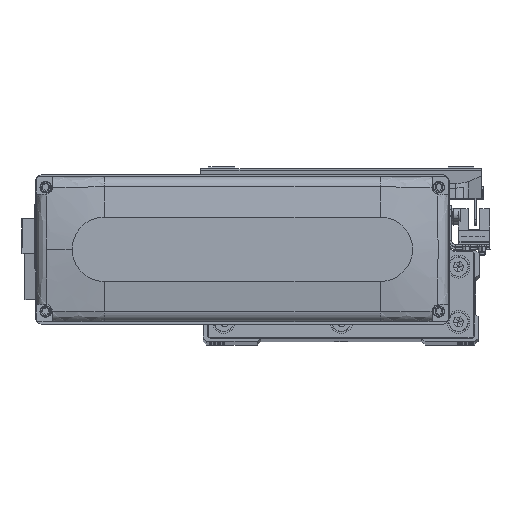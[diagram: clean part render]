
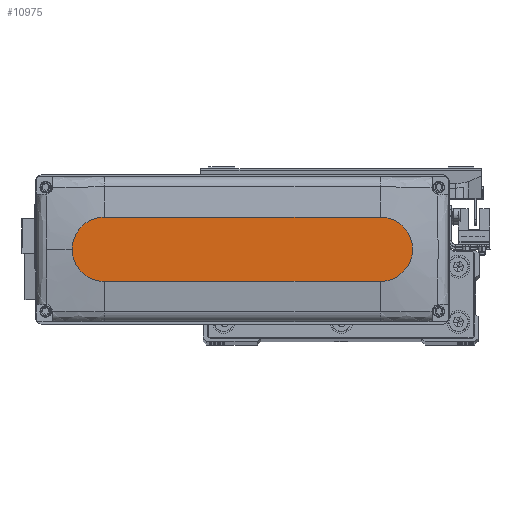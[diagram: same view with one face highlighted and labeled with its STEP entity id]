
A CAD part, top view. The second image highlights one B-rep face of the part: STEP entity #10975.
In plain terms, the highlighted planar face has unit normal (0, 0, 1).
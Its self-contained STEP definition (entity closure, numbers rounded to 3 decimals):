
#119 = ORIENTED_EDGE ( 'NONE', *, *, #21927, .T. ) ;
#1706 = DIRECTION ( 'NONE',  ( 0., 0., 1. ) ) ;
#2433 = CARTESIAN_POINT ( 'NONE',  ( -60., 14., 28.5 ) ) ;
#3876 = DIRECTION ( 'NONE',  ( 0., 0., 1. ) ) ;
#4116 = CARTESIAN_POINT ( 'NONE',  ( 60., 0., 28.5 ) ) ;
#4117 = VERTEX_POINT ( 'NONE', #28128 ) ;
#4329 = CARTESIAN_POINT ( 'NONE',  ( 0., 0., 28.5 ) ) ;
#4576 = CARTESIAN_POINT ( 'NONE',  ( 74., 0., 28.5 ) ) ;
#5502 = CARTESIAN_POINT ( 'NONE',  ( -60., 0., 28.5 ) ) ;
#5595 = VERTEX_POINT ( 'NONE', #9642 ) ;
#6003 = LINE ( 'NONE', #2433, #18856 ) ;
#6609 = VECTOR ( 'NONE', #16626, 1000. ) ;
#7443 = AXIS2_PLACEMENT_3D ( 'NONE', #4329, #33551, #25305 ) ;
#7637 = DIRECTION ( 'NONE',  ( 1., 0., 0. ) ) ;
#7939 = CARTESIAN_POINT ( 'NONE',  ( 60., 14., 28.5 ) ) ;
#9235 = VERTEX_POINT ( 'NONE', #4576 ) ;
#9642 = CARTESIAN_POINT ( 'NONE',  ( 60., -14., 28.5 ) ) ;
#10921 = FACE_OUTER_BOUND ( 'NONE', #37756, .T. ) ;
#10975 = ADVANCED_FACE ( 'NONE', ( #10921 ), #29560, .T. ) ;
#11941 = CIRCLE ( 'NONE', #44390, 14. ) ;
#12727 = ORIENTED_EDGE ( 'NONE', *, *, #35115, .T. ) ;
#13605 = CIRCLE ( 'NONE', #25674, 14. ) ;
#15940 = CARTESIAN_POINT ( 'NONE',  ( -60., -14., 28.5 ) ) ;
#16442 = VERTEX_POINT ( 'NONE', #25719 ) ;
#16626 = DIRECTION ( 'NONE',  ( 1., 0., 0. ) ) ;
#18453 = EDGE_CURVE ( 'NONE', #5595, #9235, #11941, .T. ) ;
#18699 = DIRECTION ( 'NONE',  ( -1., 0., 0. ) ) ;
#18856 = VECTOR ( 'NONE', #18699, 1000. ) ;
#19552 = ORIENTED_EDGE ( 'NONE', *, *, #44802, .T. ) ;
#20900 = DIRECTION ( 'NONE',  ( 1., 0., 0. ) ) ;
#21927 = EDGE_CURVE ( 'NONE', #16442, #4117, #13605, .T. ) ;
#24677 = VERTEX_POINT ( 'NONE', #7939 ) ;
#25305 = DIRECTION ( 'NONE',  ( 1., 0., 0. ) ) ;
#25674 = AXIS2_PLACEMENT_3D ( 'NONE', #5502, #1706, #44913 ) ;
#25719 = CARTESIAN_POINT ( 'NONE',  ( -60., 14., 28.5 ) ) ;
#26785 = ORIENTED_EDGE ( 'NONE', *, *, #18453, .T. ) ;
#27982 = CARTESIAN_POINT ( 'NONE',  ( 60., 0., 28.5 ) ) ;
#28128 = CARTESIAN_POINT ( 'NONE',  ( -60., -14., 28.5 ) ) ;
#29560 = PLANE ( 'NONE',  #7443 ) ;
#33551 = DIRECTION ( 'NONE',  ( 0., 0., 1. ) ) ;
#34589 = LINE ( 'NONE', #15940, #6609 ) ;
#35115 = EDGE_CURVE ( 'NONE', #4117, #5595, #34589, .T. ) ;
#36180 = CIRCLE ( 'NONE', #40711, 14. ) ;
#37246 = ORIENTED_EDGE ( 'NONE', *, *, #45298, .T. ) ;
#37756 = EDGE_LOOP ( 'NONE', ( #37246, #119, #12727, #26785, #19552 ) ) ;
#40711 = AXIS2_PLACEMENT_3D ( 'NONE', #27982, #42622, #20900 ) ;
#42622 = DIRECTION ( 'NONE',  ( 0., 0., 1. ) ) ;
#44390 = AXIS2_PLACEMENT_3D ( 'NONE', #4116, #3876, #7637 ) ;
#44802 = EDGE_CURVE ( 'NONE', #9235, #24677, #36180, .T. ) ;
#44913 = DIRECTION ( 'NONE',  ( 1., 0., 0. ) ) ;
#45298 = EDGE_CURVE ( 'NONE', #24677, #16442, #6003, .T. ) ;
